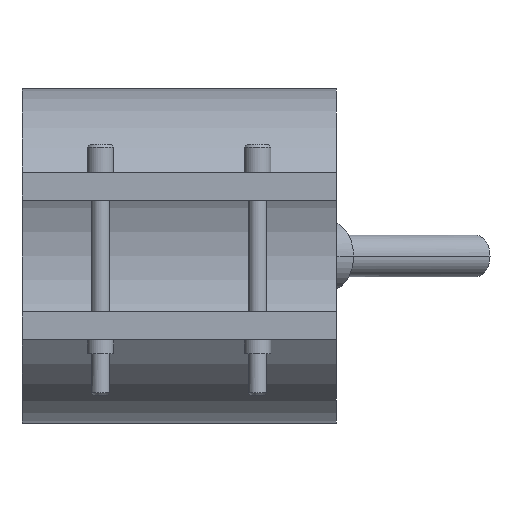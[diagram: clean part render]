
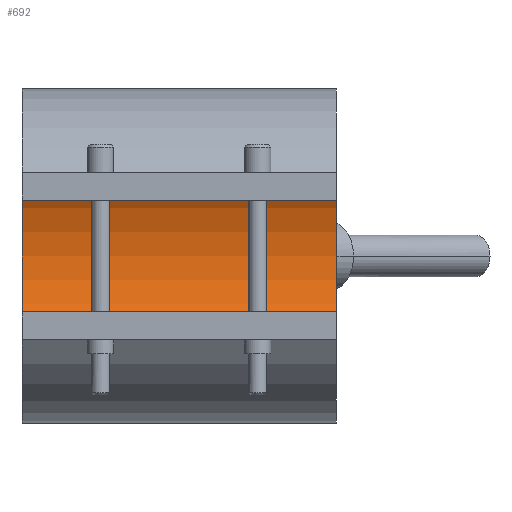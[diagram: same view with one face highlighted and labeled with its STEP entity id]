
A CAD part, front view. The second image highlights one B-rep face of the part: STEP entity #692.
In plain terms, the highlighted cylindrical face has radius 20 mm (diameter 40 mm), a partial arc.
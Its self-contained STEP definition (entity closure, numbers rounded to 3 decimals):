
#362=CARTESIAN_POINT('Vertex',(22.5,0.,20.)) ;
#367=CARTESIAN_POINT('Axis2P3D Location',(22.5,0.,0.)) ;
#371=CARTESIAN_POINT('Vertex',(22.5,0.,-20.)) ;
#478=CARTESIAN_POINT('Vertex',(-22.5,0.,-20.)) ;
#481=CARTESIAN_POINT('Axis2P3D Location',(-22.5,0.,0.)) ;
#485=CARTESIAN_POINT('Vertex',(-22.5,0.,20.)) ;
#664=CARTESIAN_POINT('Line Origine',(22.5,0.,20.)) ;
#676=CARTESIAN_POINT('Axis2P3D Location',(22.5,0.,0.)) ;
#681=CARTESIAN_POINT('Line Origine',(22.5,0.,-20.)) ;
#368=DIRECTION('Axis2P3D Direction',(1.,0.,0.)) ;
#482=DIRECTION('Axis2P3D Direction',(1.,0.,0.)) ;
#665=DIRECTION('Vector Direction',(1.,0.,0.)) ;
#677=DIRECTION('Axis2P3D Direction',(1.,0.,-0.)) ;
#678=DIRECTION('Axis2P3D XDirection',(0.,0.,-1.)) ;
#682=DIRECTION('Vector Direction',(1.,0.,0.)) ;
#369=AXIS2_PLACEMENT_3D('Circle Axis2P3D',#367,#368,$) ;
#483=AXIS2_PLACEMENT_3D('Circle Axis2P3D',#481,#482,$) ;
#679=AXIS2_PLACEMENT_3D('Cylinder Axis2P3D',#676,#677,#678) ;
#687=ORIENTED_EDGE('',*,*,#373,.T.) ;
#688=ORIENTED_EDGE('',*,*,#668,.T.) ;
#689=ORIENTED_EDGE('',*,*,#487,.F.) ;
#690=ORIENTED_EDGE('',*,*,#685,.T.) ;
#666=VECTOR('Line Direction',#665,1.) ;
#683=VECTOR('Line Direction',#682,1.) ;
#692=ADVANCED_FACE('29040045',(#691),#680,.F.) ;
#370=CIRCLE('generated circle',#369,20.) ;
#484=CIRCLE('generated circle',#483,20.) ;
#680=CYLINDRICAL_SURFACE('generated cylinder',#679,20.) ;
#373=EDGE_CURVE('',#372,#363,#370,.T.) ;
#487=EDGE_CURVE('',#479,#486,#484,.T.) ;
#668=EDGE_CURVE('',#363,#486,#667,.F.) ;
#685=EDGE_CURVE('',#479,#372,#684,.T.) ;
#686=EDGE_LOOP('',(#687,#688,#689,#690)) ;
#691=FACE_OUTER_BOUND('',#686,.T.) ;
#667=LINE('Line',#664,#666) ;
#684=LINE('Line',#681,#683) ;
#363=VERTEX_POINT('',#362) ;
#372=VERTEX_POINT('',#371) ;
#479=VERTEX_POINT('',#478) ;
#486=VERTEX_POINT('',#485) ;
